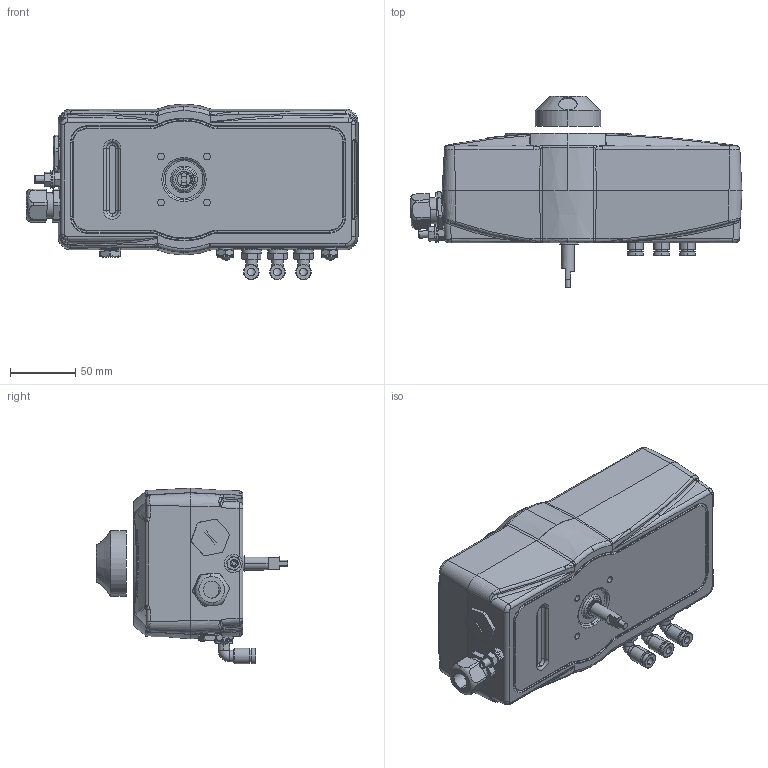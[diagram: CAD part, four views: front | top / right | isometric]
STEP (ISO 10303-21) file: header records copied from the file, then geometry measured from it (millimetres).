
FILE_DESCRIPTION (( 'STEP AP214' ), '1' );
FILE_NAME ('boitier LC3-F05.STEP', '2020-04-15T08:37:09', ( '' ), ( '' ), 'SwSTEP 2.0', 'SolidWorks 2017', '' );
FILE_SCHEMA (( 'AUTOMOTIVE_DESIGN' ));
Length unit declared in the file: millimetre
Products named in the file (2): boitier LC3-F05
Bounding box: 254.7 x 146.7 x 134.75 mm (x, y, z)
Surface area: 119635.5 mm2 (no closed solid volume)
Topology: 0 solids, 34 shells, 863 faces, 2406 edges, 1532 vertices
Faces by surface type: plane 300, cylinder 200, bspline 178, torus 102, cone 77, sphere 6
Entity records: 46673 total; most frequent: CARTESIAN_POINT 17439, ORIENTED_EDGE 4206, DIRECTION 3688, EDGE_CURVE 2380, VERTEX_POINT 1530, AXIS2_PLACEMENT_3D 1480, EDGE_LOOP 946, UNCERTAINTY_MEASURE_WITH_UNIT 865
